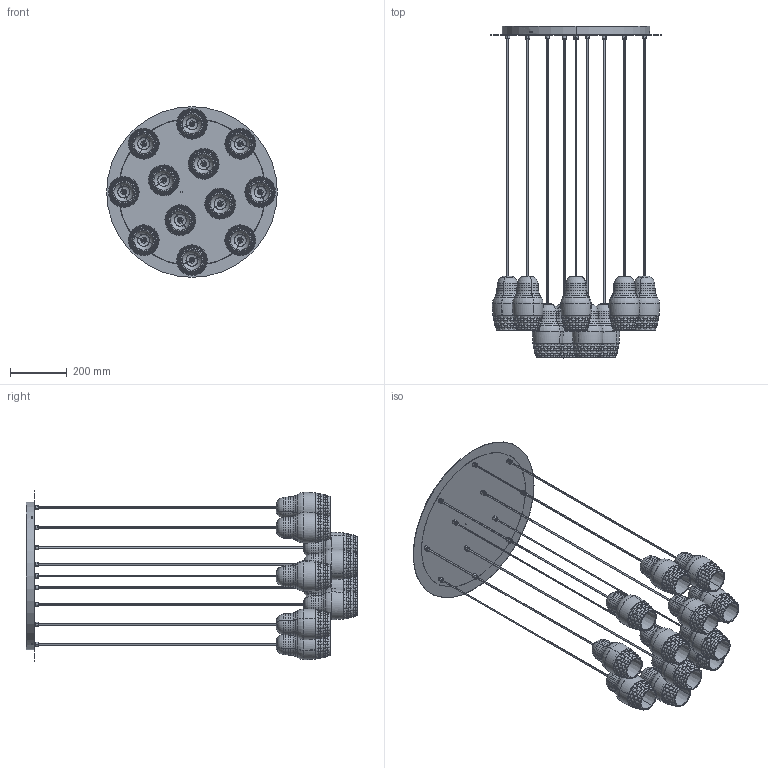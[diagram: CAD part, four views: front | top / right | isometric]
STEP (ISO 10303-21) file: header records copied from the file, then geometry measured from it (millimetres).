
FILE_DESCRIPTION (( 'STEP AP203' ), '1' );
FILE_NAME ('SPFEDO12XXXXGU1-3D.STEP', '2015-02-24T17:59:31', ( '' ), ( '' ), 'SwSTEP 2.0', 'SolidWorks 2014', '' );
FILE_SCHEMA (( 'CONFIG_CONTROL_DESIGN' ));
Length unit declared in the file: millimetre
Products named in the file (27): FEDORA-SP-WIRE-CE-3.5M___; CUPOLAFEDORA-3D; FEDORA-SP12-4-01_Default<___>; PENDENTEFEDORA-3D; SPFEDO12XXXXGU1-3D; FEDORA-SP12-4-03; FEDORA-SP12-4-05; ROSONESPFEDOR12GU1-3D; FEDORA-SP1-1-5-1-01; CUPOLAFEDORA-02-3D; VFEDORA-3D
Assembly tree (48 placements, depth 5):
  SPFEDO12XXXXGU1-3D
    ROSONESPFEDOR12GU1-3D
      FEDORA-SP12-4-01_Default<___>
      FEDORA-SP12-4-03
      FEDORA-SP12-4-05  x12
    PENDENTEFEDORA-3D
      FEDORA-SP-WIRE-CE-3.5M___
      CUPOLAFEDORA-3D
        CUPOLAFEDORA-02-3D
          FEDORA-SP1-1-5-1-01
        VFEDORA-3D
    PENDENTEFEDORA-3D
      FEDORA-SP-WIRE-CE-3.5M___
      CUPOLAFEDORA-3D
        CUPOLAFEDORA-02-3D
          FEDORA-SP1-1-5-1-01
        VFEDORA-3D
    PENDENTEFEDORA-3D
      FEDORA-SP-WIRE-CE-3.5M___
      CUPOLAFEDORA-3D
        CUPOLAFEDORA-02-3D
          FEDORA-SP1-1-5-1-01
        VFEDORA-3D
    PENDENTEFEDORA-3D
      FEDORA-SP-WIRE-CE-3.5M___
      CUPOLAFEDORA-3D
        CUPOLAFEDORA-02-3D
          FEDORA-SP1-1-5-1-01
        VFEDORA-3D
    PENDENTEFEDORA-3D
      FEDORA-SP-WIRE-CE-3.5M___
      CUPOLAFEDORA-3D
        CUPOLAFEDORA-02-3D
          FEDORA-SP1-1-5-1-01
        VFEDORA-3D
    PENDENTEFEDORA-3D
      FEDORA-SP-WIRE-CE-3.5M___
      CUPOLAFEDORA-3D
        CUPOLAFEDORA-02-3D
          FEDORA-SP1-1-5-1-01
        VFEDORA-3D
    PENDENTEFEDORA-3D
      FEDORA-SP-WIRE-CE-3.5M___
      CUPOLAFEDORA-3D
        CUPOLAFEDORA-02-3D
          FEDORA-SP1-1-5-1-01
        VFEDORA-3D
    PENDENTEFEDORA-3D
      FEDORA-SP-WIRE-CE-3.5M___
      CUPOLAFEDORA-3D
        CUPOLAFEDORA-02-3D
          FEDORA-SP1-1-5-1-01
        VFEDORA-3D
    PENDENTEFEDORA-3D  x4
      FEDORA-SP-WIRE-CE-3.5M___
      CUPOLAFEDORA-3D
        CUPOLAFEDORA-02-3D
          FEDORA-SP1-1-5-1-01
        VFEDORA-3D
Bounding box: 600 x 1166.71 x 600 mm (x, y, z)
Volume: 3150925.9 mm3; surface area: 2741150.3 mm2
Topology: 51 solids, 51 shells, 3314 faces, 7559 edges, 4372 vertices
Faces by surface type: bspline 2040, torus 698, cylinder 259, cone 168, plane 149
Entity records: 29071 total; most frequent: CARTESIAN_POINT 14725, ORIENTED_EDGE 2286, DIRECTION 2173, EDGE_CURVE 1143, AXIS2_PLACEMENT_3D 919, VERTEX_POINT 682, EDGE_LOOP 593, CIRCLE 516
